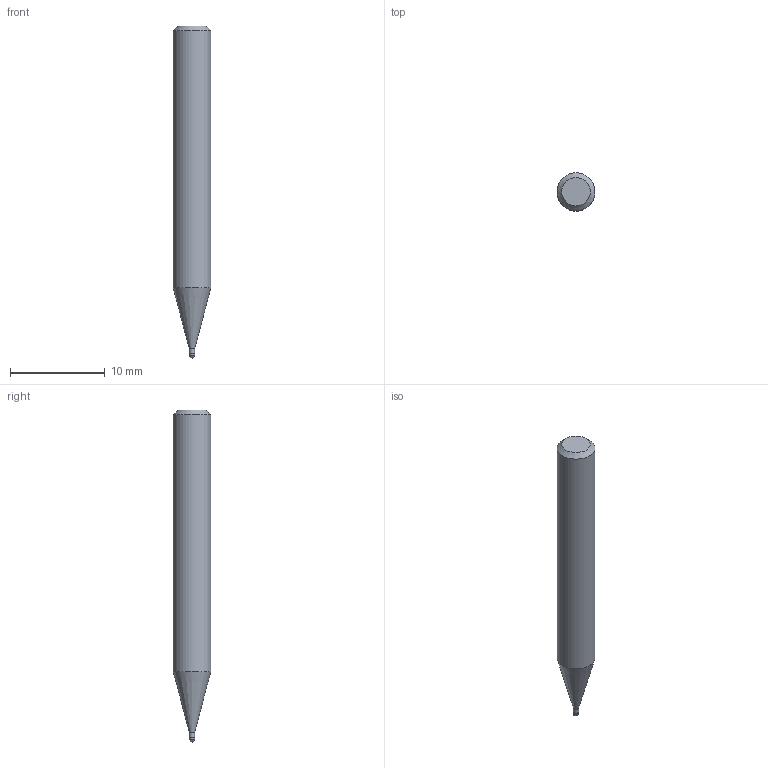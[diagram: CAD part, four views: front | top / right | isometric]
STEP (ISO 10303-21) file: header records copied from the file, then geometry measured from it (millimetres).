
FILE_DESCRIPTION((''),'2;1');
FILE_NAME('C:\Users\nsx150\AppData\Local\Temp\Mastercam 2021\QT8KEW0Y7J\TEMP.step','2021-04-23T11:20:46',(''),(''),'STEP Write','Mastercam 2021 ... CNC Software, Inc.','');
FILE_SCHEMA(('AUTOMOTIVE_DESIGN'));
Length unit declared in the file: millimetre
Products named in the file (1): None
Bounding box: 4 x 4 x 35 mm (x, y, z)
Volume: 376.6 mm3; surface area: 405.1 mm2
Topology: 2 solids, 2 shells, 9 faces, 14 edges, 8 vertices
Faces by surface type: plane 3, cylinder 3, cone 2, sphere 1
Full cylindrical faces by diameter (mm): 0.56 x1, 0.6 x1, 4 x1
Entity records: 211 total; most frequent: DIRECTION 36, CARTESIAN_POINT 25, AXIS2_PLACEMENT_3D 18, ORIENTED_EDGE 14, EDGE_LOOP 14, STYLED_ITEM 12, ADVANCED_FACE 9, FACE_BOUND 8
